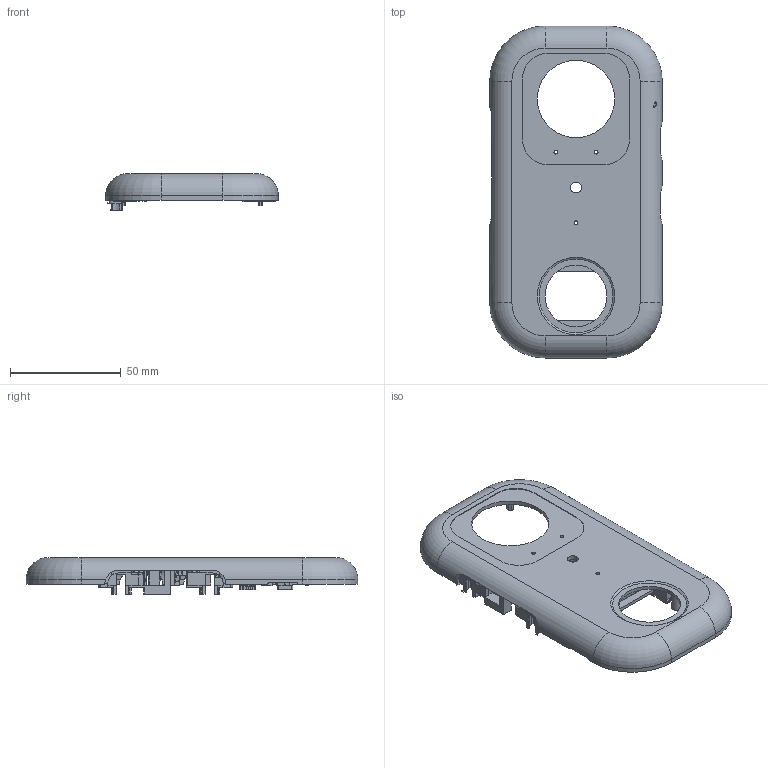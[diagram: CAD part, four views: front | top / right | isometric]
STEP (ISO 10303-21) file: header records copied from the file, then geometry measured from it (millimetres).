
FILE_DESCRIPTION(('Open CASCADE Model'),'2;1');
FILE_NAME('Open CASCADE Shape Model','2026-09-15T14:30:52',('Author'),( 'Open CASCADE'),'Open CASCADE STEP processor 7.7','Open CASCADE 7.7' ,'Unknown');
FILE_SCHEMA(('AUTOMOTIVE_DESIGN { 1 0 10303 214 1 1 1 1 }'));
Length unit declared in the file: millimetre
Products named in the file (1): Open CASCADE STEP translator 7.7 1
Bounding box: 78 x 150 x 16.6 mm (x, y, z)
Volume: 34261.1 mm3; surface area: 35098.9 mm2
Topology: 1 solids, 1 shells, 1368 faces, 3899 edges, 2572 vertices
Faces by surface type: plane 837, cylinder 407, torus 59, bspline 54, cone 11
Full cylindrical faces by diameter (mm): 1.65 x2, 1.7 x11, 1.8 x5, 1.85 x1, 2.1 x4, 3 x3, 4.2 x2, 4.9 x1, 5.7 x1, 6 x1, 27.9 x1, 35 x1
Entity records: 130976 total; most frequent: CARTESIAN_POINT 57975, DIRECTION 12249, ORIENTED_EDGE 7798, PCURVE 7798, DEFINITIONAL_REPRESENTATION 7798, LINE 7039, VECTOR 7039, EDGE_CURVE 3899
